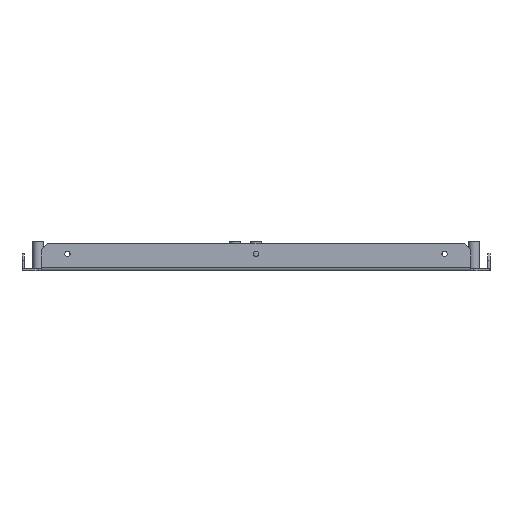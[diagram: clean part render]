
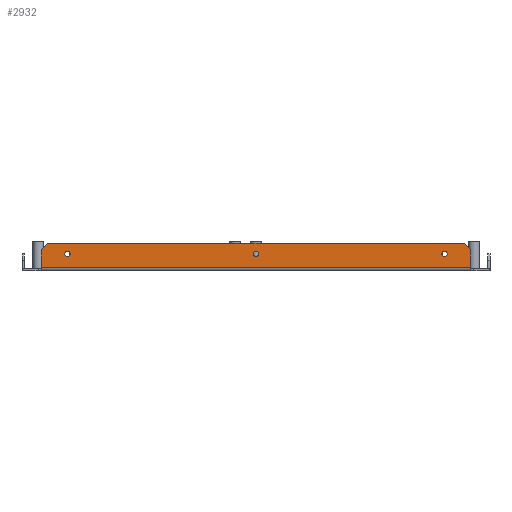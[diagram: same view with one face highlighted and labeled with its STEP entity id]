
A CAD part, front view. The second image highlights one B-rep face of the part: STEP entity #2932.
In plain terms, the highlighted planar face has unit normal (0, -1, 0).
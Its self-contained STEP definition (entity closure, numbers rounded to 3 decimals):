
#813=CARTESIAN_POINT('',(-90.,-63.7,-7.998));
#814=DIRECTION('',(0.,1.,0.));
#815=DIRECTION('',(-1.,0.,0.));
#816=AXIS2_PLACEMENT_3D('',#813,#814,#815);
#818=CARTESIAN_POINT('',(-90.,-63.7,-7.998));
#819=DIRECTION('',(0.,1.,0.));
#820=DIRECTION('',(1.,0.,0.));
#821=AXIS2_PLACEMENT_3D('',#818,#819,#820);
#823=CARTESIAN_POINT('',(0.,-63.7,-7.998));
#824=DIRECTION('',(0.,1.,0.));
#825=DIRECTION('',(-1.,0.,0.));
#826=AXIS2_PLACEMENT_3D('',#823,#824,#825);
#828=CARTESIAN_POINT('',(0.,-63.7,-7.998));
#829=DIRECTION('',(0.,1.,0.));
#830=DIRECTION('',(1.,0.,0.));
#831=AXIS2_PLACEMENT_3D('',#828,#829,#830);
#833=CARTESIAN_POINT('',(90.,-63.7,-7.998));
#834=DIRECTION('',(0.,1.,0.));
#835=DIRECTION('',(-1.,0.,0.));
#836=AXIS2_PLACEMENT_3D('',#833,#834,#835);
#838=CARTESIAN_POINT('',(90.,-63.7,-7.998));
#839=DIRECTION('',(0.,1.,0.));
#840=DIRECTION('',(1.,0.,0.));
#841=AXIS2_PLACEMENT_3D('',#838,#839,#840);
#843=DIRECTION('',(-0.707,0.,-0.707));
#844=VECTOR('',#843,4.243);
#845=CARTESIAN_POINT('',(-99.5,-63.7,-2.998));
#846=LINE('',#845,#844);
#847=DIRECTION('',(-0.707,0.,0.707));
#848=VECTOR('',#847,4.243);
#849=CARTESIAN_POINT('',(102.5,-63.7,-5.998));
#850=LINE('',#849,#848);
#851=DIRECTION('',(-1.,0.,0.));
#852=VECTOR('',#851,205.);
#853=CARTESIAN_POINT('',(102.5,-63.7,-14.498));
#854=LINE('',#853,#852);
#867=DIRECTION('',(0.,0.,-1.));
#868=VECTOR('',#867,8.5);
#869=CARTESIAN_POINT('',(-102.5,-63.7,-5.998));
#870=LINE('',#869,#868);
#949=DIRECTION('',(0.,0.,1.));
#950=VECTOR('',#949,8.5);
#951=CARTESIAN_POINT('',(102.5,-63.7,-14.498));
#952=LINE('',#951,#950);
#981=DIRECTION('',(-1.,0.,0.));
#982=VECTOR('',#981,199.);
#983=CARTESIAN_POINT('',(99.5,-63.7,-2.998));
#984=LINE('',#983,#982);
#1489=CARTESIAN_POINT('',(-91.25,-63.7,-7.998));
#1490=CARTESIAN_POINT('',(-88.75,-63.7,-7.998));
#1491=VERTEX_POINT('',#1489);
#1492=VERTEX_POINT('',#1490);
#1493=CARTESIAN_POINT('',(-1.25,-63.7,-7.998));
#1494=CARTESIAN_POINT('',(1.25,-63.7,-7.998));
#1495=VERTEX_POINT('',#1493);
#1496=VERTEX_POINT('',#1494);
#1497=CARTESIAN_POINT('',(88.75,-63.7,-7.998));
#1498=CARTESIAN_POINT('',(91.25,-63.7,-7.998));
#1499=VERTEX_POINT('',#1497);
#1500=VERTEX_POINT('',#1498);
#1626=CARTESIAN_POINT('',(-102.5,-63.7,-14.498));
#1628=VERTEX_POINT('',#1626);
#1629=CARTESIAN_POINT('',(102.5,-63.7,-14.498));
#1630=VERTEX_POINT('',#1629);
#1689=CARTESIAN_POINT('',(-99.5,-63.7,-2.998));
#1690=CARTESIAN_POINT('',(-102.5,-63.7,-5.998));
#1691=VERTEX_POINT('',#1689);
#1692=VERTEX_POINT('',#1690);
#1701=CARTESIAN_POINT('',(102.5,-63.7,-5.998));
#1702=VERTEX_POINT('',#1701);
#1703=CARTESIAN_POINT('',(99.5,-63.7,-2.998));
#1704=VERTEX_POINT('',#1703);
#2895=CARTESIAN_POINT('',(111.7,-63.7,-15.998));
#2896=DIRECTION('',(0.,-1.,0.));
#2897=DIRECTION('',(-1.,0.,0.));
#2898=AXIS2_PLACEMENT_3D('',#2895,#2896,#2897);
#2899=PLANE('',#2898);
#2901=ORIENTED_EDGE('',*,*,#2900,.F.);
#2903=ORIENTED_EDGE('',*,*,#2902,.F.);
#2905=ORIENTED_EDGE('',*,*,#2904,.F.);
#2907=ORIENTED_EDGE('',*,*,#2906,.F.);
#2909=ORIENTED_EDGE('',*,*,#2908,.T.);
#2911=ORIENTED_EDGE('',*,*,#2910,.F.);
#2912=EDGE_LOOP('',(#2901,#2903,#2905,#2907,#2909,#2911));
#2913=FACE_OUTER_BOUND('',#2912,.F.);
#2915=ORIENTED_EDGE('',*,*,#2914,.F.);
#2917=ORIENTED_EDGE('',*,*,#2916,.F.);
#2918=EDGE_LOOP('',(#2915,#2917));
#2919=FACE_BOUND('',#2918,.F.);
#2921=ORIENTED_EDGE('',*,*,#2920,.F.);
#2923=ORIENTED_EDGE('',*,*,#2922,.F.);
#2924=EDGE_LOOP('',(#2921,#2923));
#2925=FACE_BOUND('',#2924,.F.);
#2927=ORIENTED_EDGE('',*,*,#2926,.F.);
#2929=ORIENTED_EDGE('',*,*,#2928,.F.);
#2930=EDGE_LOOP('',(#2927,#2929));
#2931=FACE_BOUND('',#2930,.F.);
#817=CIRCLE('',#816,1.25);
#822=CIRCLE('',#821,1.25);
#827=CIRCLE('',#826,1.25);
#832=CIRCLE('',#831,1.25);
#837=CIRCLE('',#836,1.25);
#842=CIRCLE('',#841,1.25);
#2900=EDGE_CURVE('',#1691,#1692,#846,.T.);
#2902=EDGE_CURVE('',#1704,#1691,#984,.T.);
#2904=EDGE_CURVE('',#1702,#1704,#850,.T.);
#2906=EDGE_CURVE('',#1630,#1702,#952,.T.);
#2908=EDGE_CURVE('',#1630,#1628,#854,.T.);
#2910=EDGE_CURVE('',#1692,#1628,#870,.T.);
#2914=EDGE_CURVE('',#1491,#1492,#817,.T.);
#2916=EDGE_CURVE('',#1492,#1491,#822,.T.);
#2920=EDGE_CURVE('',#1495,#1496,#827,.T.);
#2922=EDGE_CURVE('',#1496,#1495,#832,.T.);
#2926=EDGE_CURVE('',#1499,#1500,#837,.T.);
#2928=EDGE_CURVE('',#1500,#1499,#842,.T.);
#2932=ADVANCED_FACE('',(#2913,#2919,#2925,#2931),#2899,.T.);
